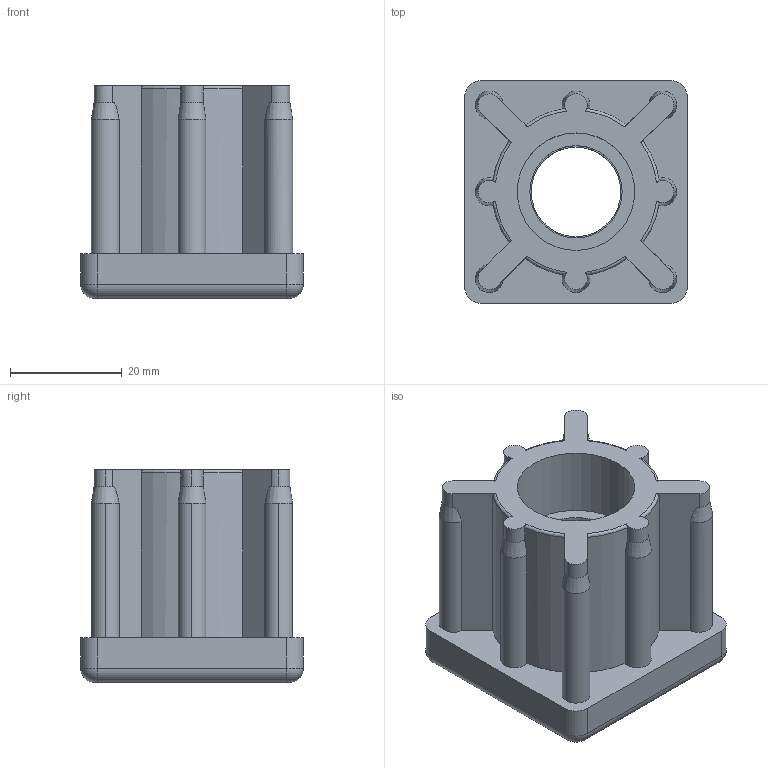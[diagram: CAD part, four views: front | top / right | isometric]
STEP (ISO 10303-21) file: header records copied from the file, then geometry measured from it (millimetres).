
FILE_DESCRIPTION (( 'STEP AP214' ), '1' );
FILE_NAME ('42006840316.STEP', '2020-02-26T10:35:59', ( '' ), ( '' ), 'SwSTEP 2.0', 'SolidWorks 2018', '' );
FILE_SCHEMA (( 'AUTOMOTIVE_DESIGN' ));
Length unit declared in the file: millimetre
Products named in the file (1): 42006840316
Bounding box: 39.8 x 39.8 x 38 mm (x, y, z)
Volume: 29974.3 mm3; surface area: 13305 mm2
Topology: 2 solids, 2 shells, 112 faces, 297 edges, 192 vertices
Faces by surface type: cylinder 56, plane 27, cone 17, torus 12
Entity records: 3968 total; most frequent: CARTESIAN_POINT 1090, DIRECTION 615, ORIENTED_EDGE 594, EDGE_CURVE 297, AXIS2_PLACEMENT_3D 245, VERTEX_POINT 192, CIRCLE 132, VECTOR 125
